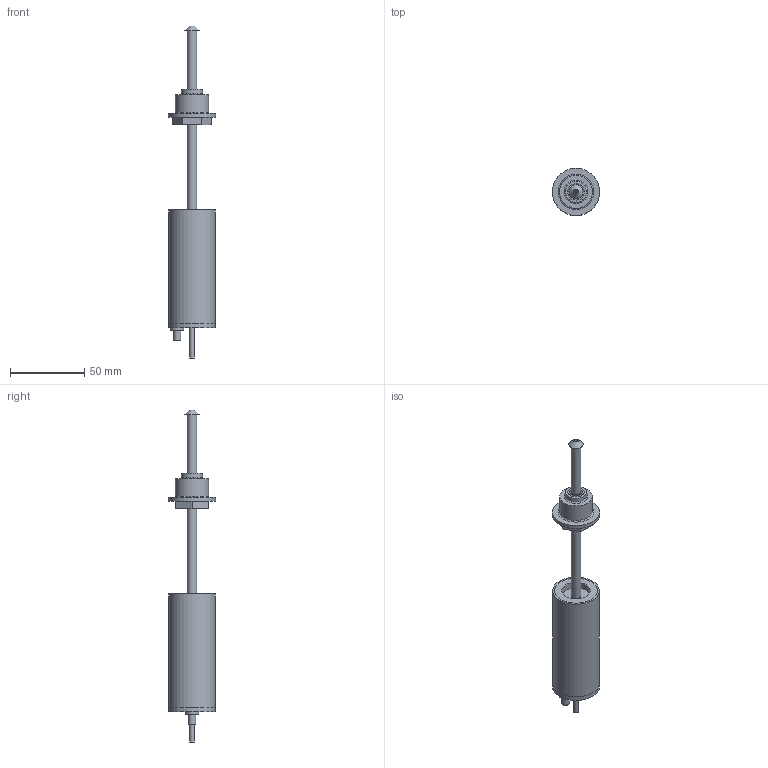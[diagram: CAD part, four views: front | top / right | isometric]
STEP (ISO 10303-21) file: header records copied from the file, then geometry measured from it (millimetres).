
FILE_DESCRIPTION((''),'2;1');
FILE_NAME('Y:\Desktop\AutoDesk\Atomizer Nozzles\30kHz\HTWS30.stp','2018-10-11T16:21:08',('Owner'),(''),'Autodesk Inventor 2013','Autodesk Inventor 2013','');
FILE_SCHEMA(('AUTOMOTIVE_DESIGN { 1 0 10303 214 1 1 1 1 }'));
Length unit declared in the file: inch
Products named in the file (9): 30khz wide ex; 1-64 screw; long case; lid; electrical connector; top tube; ring; ht nut
Assembly tree (11 placements, depth 2):
  30khz wide ex
    1-64 screw  x4
    long case
    lid
    electrical connector
    top tube
    ring
    30khz wide ex
    ht nut
Bounding box: 31.75 x 31.75 x 223.06 mm (x, y, z)
Volume: 34417.5 mm3; surface area: 28859.2 mm2
Topology: 11 solids, 11 shells, 150 faces, 278 edges, 182 vertices
Faces by surface type: plane 86, cylinder 49, torus 10, cone 5
Full cylindrical faces by diameter (mm): 0.305 x1, 0.457 x1, 1.27 x1, 1.829 x1, 1.854 x13, 2.794 x1, 2.845 x4, 2.997 x4, 3.175 x2, 4.623 x1, 5.182 x1, 6.35 x2, 8.255 x1, 8.712 x1, 8.992 x1, 11.113 x1, 14.275 x1, 17.221 x1, 19.05 x2, 22.225 x1, 25.4 x1, 29.007 x2, 31.496 x1, 31.547 x1, 31.75 x1
Entity records: 2682 total; most frequent: DIRECTION 480, CARTESIAN_POINT 381, ORIENTED_EDGE 272, AXIS2_PLACEMENT_3D 219, EDGE_LOOP 200, EDGE_CURVE 136, VERTEX_POINT 120, FACE_OUTER_BOUND 105
